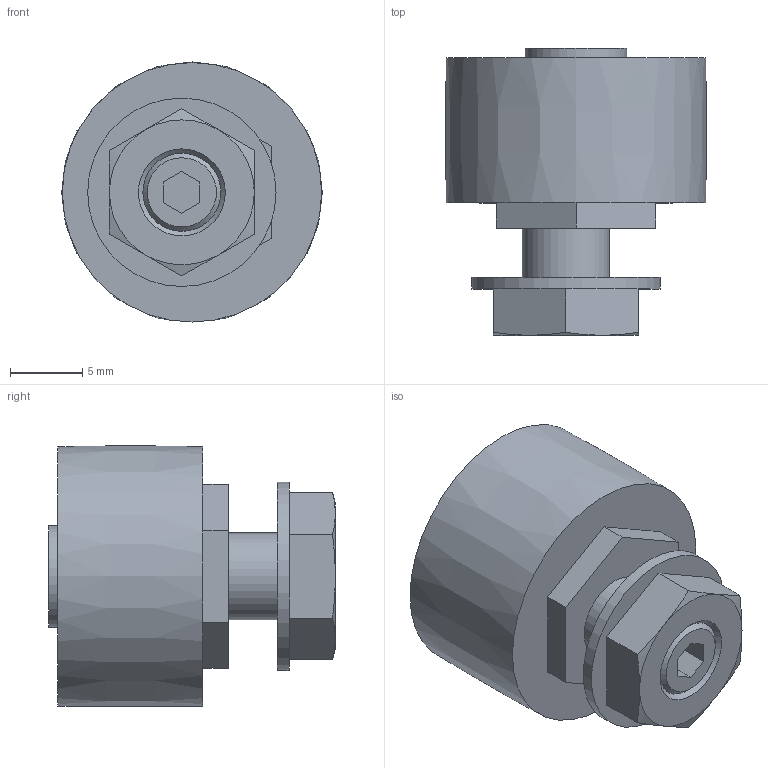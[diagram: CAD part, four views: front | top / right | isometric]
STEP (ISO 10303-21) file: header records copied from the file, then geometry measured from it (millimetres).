
FILE_DESCRIPTION( ( 'STEP AP203' ), '1' );
FILE_NAME( 'p:/temp/worker_106/temp/exporttempdir_768_769_Ivt3w/format_1/SR18E.stp', '2021-09-29T07:15:28', ( 'License CC BY-ND 4.0' ), ( 'CADENAS' ), ' ', 'PARTsolutions', ' ' );
FILE_SCHEMA( ( 'CONFIG_CONTROL_DESIGN' ) );
Length unit declared in the file: millimetre
Products named in the file (2): SR18E; _SR18ENS_
Assembly tree (1 placements, depth 2):
  SR18E
    _SR18ENS_
Bounding box: 17.99 x 19.8 x 17.94 mm (x, y, z)
Volume: 3196.7 mm3; surface area: 1606.9 mm2
Topology: 1 solids, 1 shells, 46 faces, 104 edges, 68 vertices
Faces by surface type: plane 34, cone 8, cylinder 3, bspline 1
Full cylindrical faces by diameter (mm): 6 x1, 7 x1, 13 x1
Entity records: 1334 total; most frequent: CARTESIAN_POINT 275, DIRECTION 194, ORIENTED_EDGE 190, EDGE_CURVE 95, LINE 66, VECTOR 66, VERTEX_POINT 65, AXIS2_PLACEMENT_3D 64
